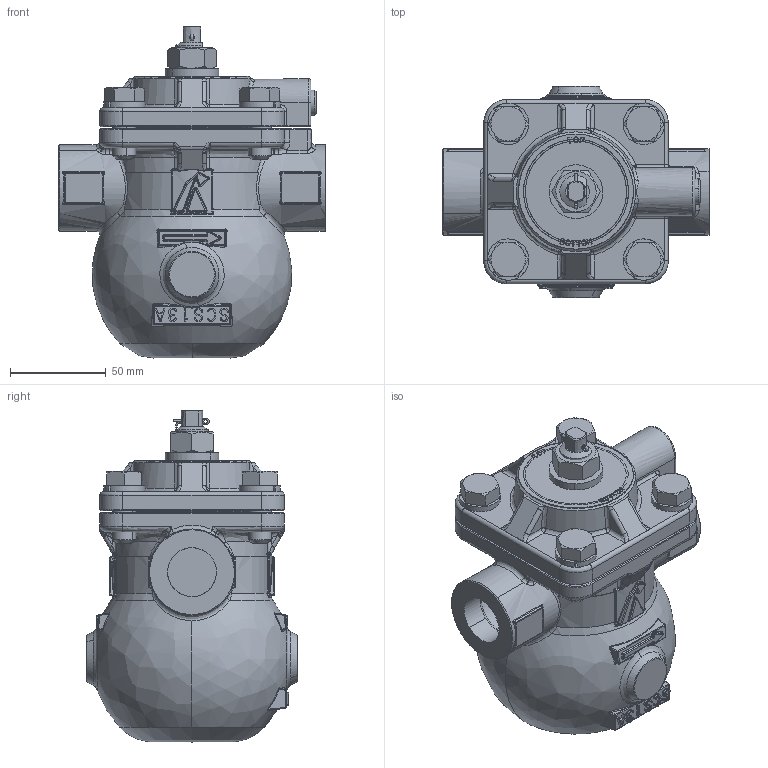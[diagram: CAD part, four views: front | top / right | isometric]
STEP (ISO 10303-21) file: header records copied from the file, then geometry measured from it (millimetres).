
FILE_DESCRIPTION((''),'2;1');
FILE_NAME('','2020-10-13T11:43:27',(''),(''),'','CADfix','');
FILE_SCHEMA(('AUTOMOTIVE_DESIGN { 1 0 10303 214 1 1 1 1 }'));
Length unit declared in the file: millimetre
Products named in the file (13): 　コック 埋め; ふた 埋め; 本体 25A JIS Rc 埋め; CP_'_JIS B 1180 呼び径六角ボルト'_17166; CP_'_JIS B 1180 呼び径六角ボルト'_17168; SSLW12; テーパプラグMSWTS2; 3D　TSF-10　割りピン; 3D　TSF-10　銘板文字; 3D　TSF-10　六角ナット; 3D　TSF-10　銘板; 3D　TSF-10　カラー; TSF-10S JISRc 25A_38
Assembly tree (17 placements, depth 2):
  TSF-10S JISRc 25A_38
    　コック 埋め
    ふた 埋め
    本体 25A JIS Rc 埋め
    CP_'_JIS B 1180 呼び径六角ボルト'_17166  x3
    CP_'_JIS B 1180 呼び径六角ボルト'_17168
    SSLW12  x4
    テーパプラグMSWTS2
    3D　TSF-10　割りピン
    3D　TSF-10　銘板文字
    3D　TSF-10　六角ナット
    3D　TSF-10　銘板
    3D　TSF-10　カラー
Bounding box: 139 x 110 x 173 mm (x, y, z)
Volume: 1048361.3 mm3; surface area: 118596.9 mm2
Topology: 17 solids, 17 shells, 1583 faces, 4300 edges, 2736 vertices
Faces by surface type: bspline 1583
Entity records: 74752 total; most frequent: CARTESIAN_POINT 45477, ORIENTED_EDGE 8134, STYLED_ITEM 5032, EDGE_CURVE 4067, VERTEX_POINT 2582, B_SPLINE_CURVE_WITH_KNOTS 1876, QUASI_UNIFORM_CURVE 1840, EDGE_LOOP 1573
